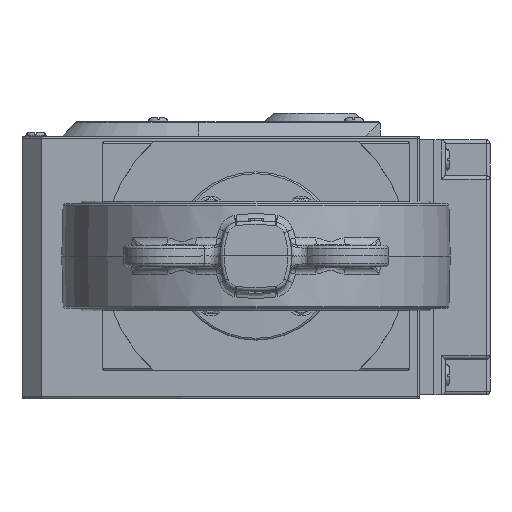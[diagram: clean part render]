
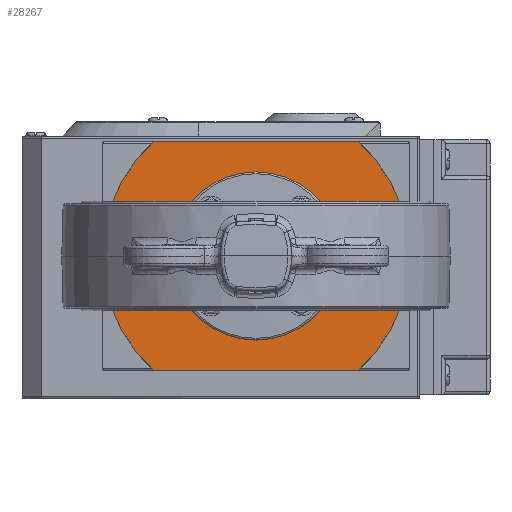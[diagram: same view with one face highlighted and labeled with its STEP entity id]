
A CAD part, front view. The second image highlights one B-rep face of the part: STEP entity #28267.
In plain terms, the highlighted planar face has unit normal (0, -1, 0).
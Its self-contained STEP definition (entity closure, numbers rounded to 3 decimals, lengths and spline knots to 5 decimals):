
#1651=PLANE('',#31295);
#3054=LINE('',#84526,#4392);
#3068=LINE('',#84558,#4406);
#4392=VECTOR('',#36397,0.11143);
#4406=VECTOR('',#36421,0.11143);
#6121=CIRCLE('',#30660,0.084);
#6376=CIRCLE('',#31294,0.084);
#6377=CIRCLE('',#31296,0.001);
#6378=CIRCLE('',#31297,0.001);
#6379=CIRCLE('',#31298,0.001);
#6380=CIRCLE('',#31299,0.001);
#8243=FACE_OUTER_BOUND('',#10038,.T.);
#10038=EDGE_LOOP('',(#26362,#26363,#26364,#26365,#26366,#26367,#26368,#26369));
#13217=VERTEX_POINT('',#84523);
#13218=VERTEX_POINT('',#84525);
#13230=VERTEX_POINT('',#84555);
#13231=VERTEX_POINT('',#84557);
#13235=VERTEX_POINT('',#84570);
#13236=VERTEX_POINT('',#84571);
#13793=VERTEX_POINT('',#88212);
#13794=VERTEX_POINT('',#88213);
#17078=EDGE_CURVE('',#13218,#13217,#3054,.T.);
#17094=EDGE_CURVE('',#13231,#13230,#3068,.T.);
#17101=EDGE_CURVE('',#13235,#13236,#6121,.T.);
#17987=EDGE_CURVE('',#13793,#13794,#6376,.T.);
#17992=EDGE_CURVE('',#13230,#13793,#6377,.F.);
#17993=EDGE_CURVE('',#13794,#13218,#6378,.F.);
#17994=EDGE_CURVE('',#13217,#13235,#6379,.F.);
#17995=EDGE_CURVE('',#13236,#13231,#6380,.F.);
#26362=ORIENTED_EDGE('',*,*,#17094,.T.);
#26363=ORIENTED_EDGE('',*,*,#17992,.T.);
#26364=ORIENTED_EDGE('',*,*,#17987,.T.);
#26365=ORIENTED_EDGE('',*,*,#17993,.T.);
#26366=ORIENTED_EDGE('',*,*,#17078,.T.);
#26367=ORIENTED_EDGE('',*,*,#17994,.T.);
#26368=ORIENTED_EDGE('',*,*,#17101,.T.);
#26369=ORIENTED_EDGE('',*,*,#17995,.T.);
#28267=ADVANCED_FACE('',(#8243),#1651,.F.);
#30660=AXIS2_PLACEMENT_3D('',#84572,#36434,#36435);
#31294=AXIS2_PLACEMENT_3D('',#88214,#38184,#38185);
#31295=AXIS2_PLACEMENT_3D('',#88231,#38188,#38189);
#31296=AXIS2_PLACEMENT_3D('',#88232,#38190,#38191);
#31297=AXIS2_PLACEMENT_3D('',#88233,#38192,#38193);
#31298=AXIS2_PLACEMENT_3D('',#88234,#38194,#38195);
#31299=AXIS2_PLACEMENT_3D('',#88235,#38196,#38197);
#36397=DIRECTION('',(1.,0.,0.));
#36421=DIRECTION('',(-1.,0.,0.));
#36434=DIRECTION('center_axis',(0.,-1.,0.));
#36435=DIRECTION('ref_axis',(1.,0.,0.));
#38184=DIRECTION('center_axis',(0.,-1.,0.));
#38185=DIRECTION('ref_axis',(1.,0.,0.));
#38188=DIRECTION('center_axis',(0.,1.,0.));
#38189=DIRECTION('ref_axis',(0.,0.,1.));
#38190=DIRECTION('center_axis',(0.,1.,0.));
#38191=DIRECTION('ref_axis',(-1.,0.,0.));
#38192=DIRECTION('center_axis',(0.,1.,0.));
#38193=DIRECTION('ref_axis',(-1.,0.,0.));
#38194=DIRECTION('center_axis',(0.,1.,0.));
#38195=DIRECTION('ref_axis',(-1.,0.,0.));
#38196=DIRECTION('center_axis',(0.,1.,0.));
#38197=DIRECTION('ref_axis',(-1.,0.,0.));
#84523=CARTESIAN_POINT('',(0.05572,-0.10875,-0.06252));
#84525=CARTESIAN_POINT('',(-0.05572,-0.10875,-0.06252));
#84526=CARTESIAN_POINT('',(-0.05572,-0.10875,-0.06252));
#84555=CARTESIAN_POINT('',(-0.05572,-0.10875,0.06252));
#84557=CARTESIAN_POINT('',(0.05572,-0.10875,0.06252));
#84558=CARTESIAN_POINT('',(0.05572,-0.10875,0.06252));
#84570=CARTESIAN_POINT('',(0.05639,-0.10875,-0.06226));
#84571=CARTESIAN_POINT('',(0.05639,-0.10875,0.06226));
#84572=CARTESIAN_POINT('Origin',(0.,-0.10875,0.));
#88212=CARTESIAN_POINT('',(-0.05639,-0.10875,0.06226));
#88213=CARTESIAN_POINT('',(-0.05639,-0.10875,-0.06226));
#88214=CARTESIAN_POINT('Origin',(0.,-0.10875,0.));
#88231=CARTESIAN_POINT('Origin',(0.,-0.10875,0.));
#88232=CARTESIAN_POINT('Origin',(-0.05572,-0.10875,0.06152));
#88233=CARTESIAN_POINT('Origin',(-0.05572,-0.10875,-0.06152));
#88234=CARTESIAN_POINT('Origin',(0.05572,-0.10875,-0.06152));
#88235=CARTESIAN_POINT('Origin',(0.05572,-0.10875,0.06152));
